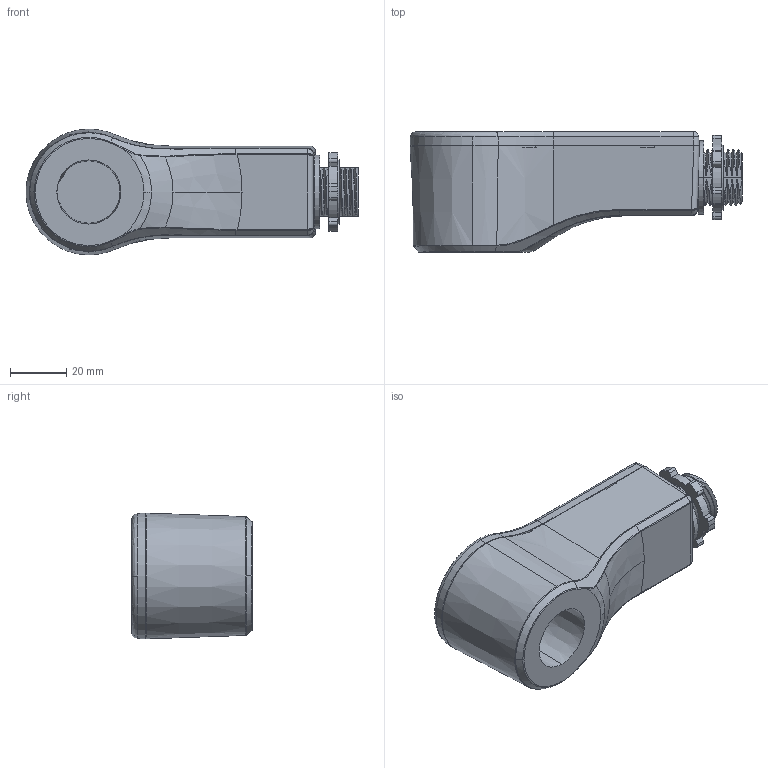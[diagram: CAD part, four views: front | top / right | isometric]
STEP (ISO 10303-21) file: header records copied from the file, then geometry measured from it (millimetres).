
FILE_DESCRIPTION (( 'STEP AP203' ), '1' );
FILE_NAME ('RA231HWB-ALL_A3_20210928.STEP', '2021-10-22T00:35:14', ( '' ), ( '' ), 'SwSTEP 2.0', 'SolidWorks 2013', '' );
FILE_SCHEMA (( 'CONFIG_CONTROL_DESIGN' ));
Length unit declared in the file: millimetre
Products named in the file (6): CAP; SPONGE_B; RA231HWB-1_X2_4E0A84CB_X0_; SPONGE_A; RA231HWB-2_X2_4E0B84CB_X0_; RA231HWB-ALL_A3_20210928
Assembly tree (5 placements, depth 2):
  RA231HWB-ALL_A3_20210928
    CAP
    SPONGE_B
    RA231HWB-1_X2_4E0A84CB_X0_
    SPONGE_A
    RA231HWB-2_X2_4E0B84CB_X0_
Bounding box: 117.82 x 42.8 x 44.63 mm (x, y, z)
Volume: 44724.9 mm3; surface area: 43642.4 mm2
Topology: 5 solids, 5 shells, 679 faces, 1844 edges, 1196 vertices
Faces by surface type: plane 256, bspline 183, cylinder 176, cone 64
Entity records: 55224 total; most frequent: CARTESIAN_POINT 39501, ORIENTED_EDGE 3688, DIRECTION 2411, EDGE_CURVE 1844, VERTEX_POINT 1196, AXIS2_PLACEMENT_3D 810, VECTOR 791, LINE 791
